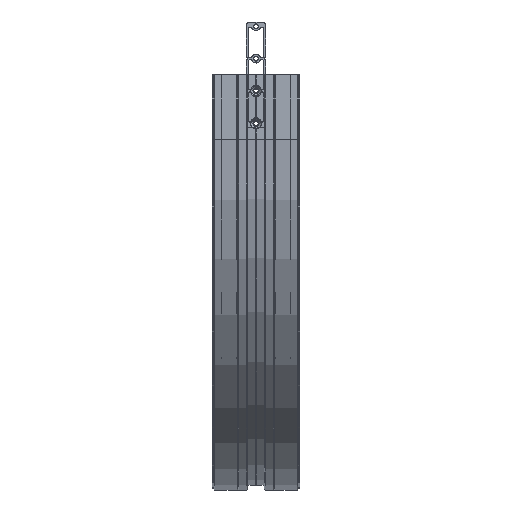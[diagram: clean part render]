
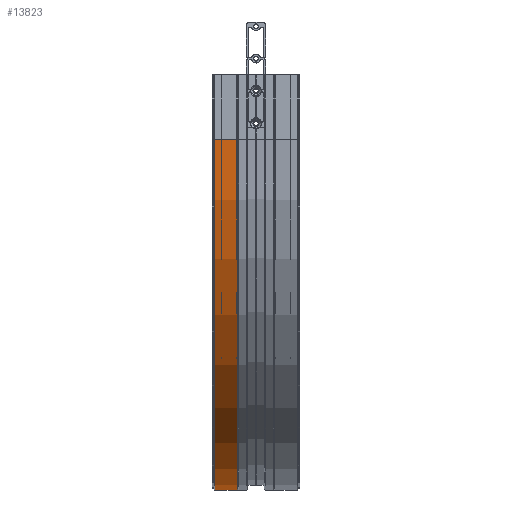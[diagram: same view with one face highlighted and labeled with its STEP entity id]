
A CAD part, left-side view. The second image highlights one B-rep face of the part: STEP entity #13823.
In plain terms, the highlighted cylindrical face has radius 543 mm (diameter 1086 mm), a partial arc.
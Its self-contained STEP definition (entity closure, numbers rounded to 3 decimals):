
#468 = CARTESIAN_POINT ( 'NONE',  ( 1043., 29.036, -100. ) ) ;
#469 = DIRECTION ( 'NONE',  ( 0., -1., 0. ) ) ;
#480 = CARTESIAN_POINT ( 'NONE',  ( -43., 29.036, -100. ) ) ;
#481 = DIRECTION ( 'NONE',  ( 0., -1., 0. ) ) ;
#831 = CARTESIAN_POINT ( 'NONE',  ( 500., 64., -100. ) ) ;
#832 = DIRECTION ( 'NONE',  ( 0., 1., 0. ) ) ;
#834 = DIRECTION ( 'NONE',  ( 0., 0., 1. ) ) ;
#850 = CARTESIAN_POINT ( 'NONE',  ( 500., 29.036, -100. ) ) ;
#851 = DIRECTION ( 'NONE',  ( 0., 1., 0. ) ) ;
#853 = DIRECTION ( 'NONE',  ( 0., 0., 1. ) ) ;
#1321 = AXIS2_PLACEMENT_3D ( 'NONE', #14216, #14180, #14750 ) ;
#1875 = AXIS2_PLACEMENT_3D ( 'NONE', #831, #832, #834 ) ;
#1880 = AXIS2_PLACEMENT_3D ( 'NONE', #850, #851, #853 ) ;
#2519 = FACE_OUTER_BOUND ( 'NONE', #6760, .T. ) ;
#2520 = CYLINDRICAL_SURFACE ( 'NONE', #1321, 543. ) ;
#6760 = EDGE_LOOP ( 'NONE', ( #7389, #7390, #7391, #7392 ) ) ;
#7259 = CIRCLE ( 'NONE', #1880, 543. ) ;
#7389 = ORIENTED_EDGE ( 'NONE', *, *, #16064, .F. ) ;
#7390 = ORIENTED_EDGE ( 'NONE', *, *, #15931, .T. ) ;
#7391 = ORIENTED_EDGE ( 'NONE', *, *, #16069, .T. ) ;
#7392 = ORIENTED_EDGE ( 'NONE', *, *, #15936, .F. ) ;
#9350 = CARTESIAN_POINT ( 'NONE',  ( -43., 29.036, -100. ) ) ;
#9750 = CARTESIAN_POINT ( 'NONE',  ( 1043., 29.036, -100. ) ) ;
#11225 = CARTESIAN_POINT ( 'NONE',  ( -43., 64., -100. ) ) ;
#11310 = VERTEX_POINT ( 'NONE', #11225 ) ;
#12733 = CARTESIAN_POINT ( 'NONE',  ( 1043., 64., -100. ) ) ;
#12815 = VERTEX_POINT ( 'NONE', #9350 ) ;
#12817 = VERTEX_POINT ( 'NONE', #9750 ) ;
#13183 = VERTEX_POINT ( 'NONE', #12733 ) ;
#13823 = ADVANCED_FACE ( 'NONE', ( #2519 ), #2520, .T. ) ;
#14180 = DIRECTION ( 'NONE',  ( 0., 1., 0. ) ) ;
#14216 = CARTESIAN_POINT ( 'NONE',  ( 500., 0., -100. ) ) ;
#14750 = DIRECTION ( 'NONE',  ( 0., 0., 1. ) ) ;
#15931 = EDGE_CURVE ( 'NONE', #13183, #12817, #17203, .T. ) ;
#15936 = EDGE_CURVE ( 'NONE', #11310, #12815, #17211, .T. ) ;
#16064 = EDGE_CURVE ( 'NONE', #13183, #11310, #17401, .T. ) ;
#16069 = EDGE_CURVE ( 'NONE', #12817, #12815, #7259, .T. ) ;
#17203 = LINE ( 'NONE', #468, #17205 ) ;
#17205 = VECTOR ( 'NONE', #469, 1000. ) ;
#17211 = LINE ( 'NONE', #480, #17213 ) ;
#17213 = VECTOR ( 'NONE', #481, 1000. ) ;
#17401 = CIRCLE ( 'NONE', #1875, 543. ) ;
